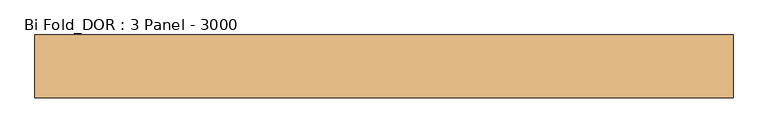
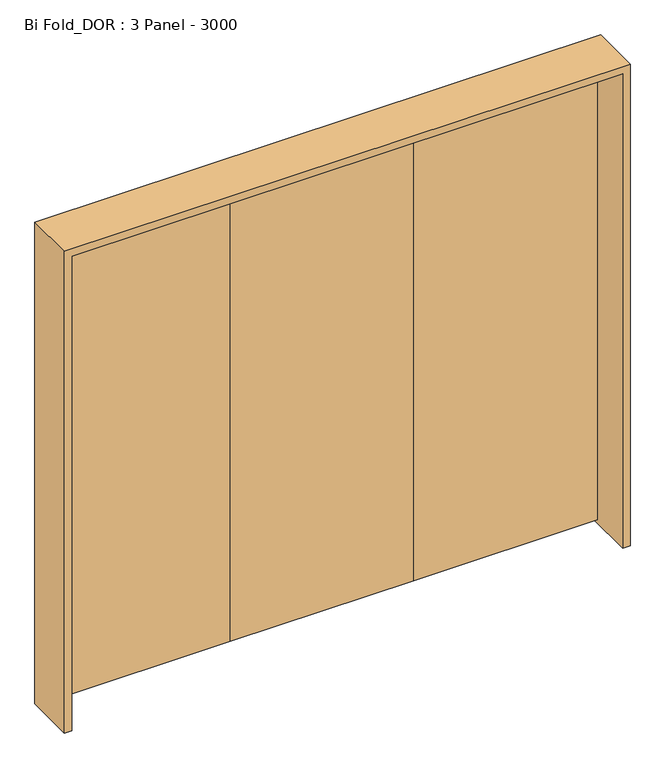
"""IFC4 building model written with IfcOpenShell, lengths in millimetres: door geometry, Bi Fold_DOR : 3 Panel - 3000."""

import ifcopenshell
import ifcopenshell.guid

model = None  # the IFC model being written
_history = None  # IfcOwnerHistory: only IFC2X3 demands one
_inside = {}  # id of a spatial element -> (the spatial element, [elements in it])
_under = {}  # id of a project, library or spatial element -> (it, [spatial elements below it])
_declared = {}  # id of a project -> (the project, [libraries it declares])
_typed = {}  # id of a type object -> (the type object, [elements of that type])
_made_of = {}  # id of a material, layer set ... -> (it, [elements and type objects made of it])


def new_model(schema):
    """Start an empty IFC model of exactly this schema.

    Asked for "IFC4X3", IfcOpenShell would pick the latest addendum, in which some entities
    have other attributes; the version numbers below select the first issue.
    IFC2X3 requires an IfcOwnerHistory on every rooted entity: one is made here for all.
    """
    global model, _history
    if schema == "IFC4X3":
        model = ifcopenshell.file(schema_version=(4, 3, 0, 0))
    else:
        model = ifcopenshell.file(schema=schema)
    _inside.clear()
    _under.clear()
    _declared.clear()
    _typed.clear()
    _made_of.clear()
    _history = None
    if model.schema == "IFC2X3":
        org = make("IfcOrganization", Name="unknown")
        user = make(
            "IfcPersonAndOrganization",
            ThePerson=make("IfcPerson", FamilyName="unknown"),
            TheOrganization=org,
        )
        app = make(
            "IfcApplication",
            ApplicationDeveloper=org,
            Version="unknown",
            ApplicationFullName="unknown",
            ApplicationIdentifier="unknown",
        )
        _history = make(
            "IfcOwnerHistory",
            OwningUser=user,
            OwningApplication=app,
            ChangeAction="ADDED",
            CreationDate=0,
        )
    return model


def make(cls, **values):
    """One entity of the class cls with the attributes given. An attribute that is None is left unset."""
    return model.create_entity(
        cls, **{name: value for name, value in values.items() if value is not None}
    )


def rooted(cls, **values):
    """An entity with a GlobalId (a new one), such as an element, a storey or a relation."""
    return make(cls, GlobalId=ifcopenshell.guid.new(), OwnerHistory=_history, **values)


def si_unit(unit_type, name, prefix=None):
    """IfcSIUnit, for example si_unit("LENGTHUNIT", "METRE", prefix="MILLI")."""
    return make("IfcSIUnit", UnitType=unit_type, Prefix=prefix, Name=name)


def assignment(units):
    """IfcUnitAssignment: the units of a project."""
    return None if units is None else make("IfcUnitAssignment", Units=units)


def point(xyz):
    """IfcCartesianPoint."""
    return None if xyz is None else make("IfcCartesianPoint", Coordinates=xyz)


def direction(xyz):
    """IfcDirection."""
    return None if xyz is None else make("IfcDirection", DirectionRatios=xyz)


def frame(location, z_axis=None, x_axis=None):
    """IfcAxis2Placement3D, a coordinate frame: its origin and axes. An axis left out is left unset."""
    return make(
        "IfcAxis2Placement3D",
        Location=point(location),
        Axis=direction(z_axis),
        RefDirection=direction(x_axis),
    )


def origin():
    """The frame at (0, 0, 0) with its axes left unset."""
    return frame((0.0, 0.0, 0.0))


def place(relative_to, where):
    """IfcLocalPlacement: puts the frame where relative to a parent placement (None: the world)."""
    return make(
        "IfcLocalPlacement", PlacementRelTo=relative_to, RelativePlacement=where
    )


def context(
    kind, dimensions, precision=None, world=None, true_north=None, identifier=None
):
    """IfcGeometricRepresentationContext, for example the 3D "Model" context."""
    return make(
        "IfcGeometricRepresentationContext",
        ContextIdentifier=identifier,
        ContextType=kind,
        CoordinateSpaceDimension=dimensions,
        Precision=precision,
        WorldCoordinateSystem=world,
        TrueNorth=true_north,
    )


def project(units=None, contexts=None):
    """IfcProject with its units and contexts."""
    return rooted(
        "IfcProject",
        Name="project",
        RepresentationContexts=contexts,
        UnitsInContext=assignment(units),
    )


def spatial(cls, under=None, at=None, **own):
    """A site, building, storey or space (cls), placed at a placement, below another one or the project."""
    s = rooted(cls, ObjectPlacement=at, **own)
    if under is not None:
        _under.setdefault(under.id(), (under, []))[1].append(s)
    return s


def polyline(points):
    """IfcPolyline through the points."""
    return make("IfcPolyline", Points=[point(p) for p in points])


def outline(outer, holes=None, kind="AREA"):
    """IfcArbitraryClosedProfileDef: a profile drawn as a closed curve; with holes, ...WithVoids."""
    if holes is None:
        return make("IfcArbitraryClosedProfileDef", ProfileType=kind, OuterCurve=outer)
    return make(
        "IfcArbitraryProfileDefWithVoids",
        ProfileType=kind,
        OuterCurve=outer,
        InnerCurves=holes,
    )


def extrude(swept, where, along, depth):
    """IfcExtrudedAreaSolid: the profile swept, set in the frame where, extruded along a direction by depth."""
    return make(
        "IfcExtrudedAreaSolid",
        SweptArea=swept,
        Position=where,
        ExtrudedDirection=direction(along),
        Depth=depth,
    )


def shape(context_of_items, identifier, shape_type, items):
    """IfcShapeRepresentation: the items that make up one representation, for example the "Body"."""
    return make(
        "IfcShapeRepresentation",
        ContextOfItems=context_of_items,
        RepresentationIdentifier=identifier,
        RepresentationType=shape_type,
        Items=items,
    )


def source(mapping_origin, context_of_items, identifier, shape_type, items):
    """IfcRepresentationMap: a shape defined once, which mapped items show again and again."""
    return make(
        "IfcRepresentationMap",
        MappingOrigin=mapping_origin,
        MappedRepresentation=shape(context_of_items, identifier, shape_type, items),
    )


def transform(
    local_origin,
    x_axis=None,
    y_axis=None,
    z_axis=None,
    scale=None,
    scale2=None,
    scale3=None,
    uniform=True,
):
    """IfcCartesianTransformationOperator3D, or its non-uniform kind. x_axis, y_axis, z_axis: its Axis1, 2, 3."""
    if uniform:
        return make(
            "IfcCartesianTransformationOperator3D",
            Axis1=direction(x_axis),
            Axis2=direction(y_axis),
            LocalOrigin=point(local_origin),
            Scale=scale,
            Axis3=direction(z_axis),
        )
    return make(
        "IfcCartesianTransformationOperator3DnonUniform",
        Axis1=direction(x_axis),
        Axis2=direction(y_axis),
        LocalOrigin=point(local_origin),
        Scale=scale,
        Axis3=direction(z_axis),
        Scale2=scale2,
        Scale3=scale3,
    )


def mapped(mapping_source, mapping_target):
    """IfcMappedItem: shows the shape of a source again, moved by a transform."""
    return make(
        "IfcMappedItem", MappingSource=mapping_source, MappingTarget=mapping_target
    )


def made_of(thing, what):
    """Note that an element or type object is made of a material, layer set ...; save() writes the relation."""
    if what is not None:
        _made_of.setdefault(what.id(), (what, []))[1].append(thing)
    return thing


def element(
    cls,
    number,
    at=None,
    inside=None,
    cuts=None,
    type_object=None,
    material=None,
    context=None,
    identifier="Body",
    shape_type=None,
    held_by="IfcProductDefinitionShape",
    body=None,
    shapes=None,
    **own,
):
    """One element of the class cls, such as IfcWall. Its Tag is "e" and its number.

    at: its placement. inside: the storey or other place that contains it. cuts: it is an
    opening in that element (IfcRelVoidsElement). A single representation is given by context,
    identifier, shape_type and body (its items); several are given by shapes. held_by: the class
    of the entity that holds the representations. save() writes the other relations.
    """
    e = rooted(cls, Tag="e%d" % number, ObjectPlacement=at, **own)
    if body is not None:
        shapes = [shape(context, identifier, shape_type, body)]
    if shapes is not None:
        e.Representation = make(held_by, Representations=shapes)
    if inside is not None:
        _inside.setdefault(inside.id(), (inside, []))[1].append(e)
    if cuts is not None:
        rooted(
            "IfcRelVoidsElement", RelatingBuildingElement=cuts, RelatedOpeningElement=e
        )
    if type_object is not None:
        _typed.setdefault(type_object.id(), (type_object, []))[1].append(e)
    return made_of(e, material)


def aggregate(whole, parts):
    """IfcRelAggregates: a whole, such as a stair, and the parts it consists of."""
    return rooted("IfcRelAggregates", RelatingObject=whole, RelatedObjects=parts)


def save(model, path):
    """Write the relations noted so far, then the file.

    IfcRelAggregates (storeys below a building ...), IfcRelContainedInSpatialStructure (elements
    in a storey), IfcRelDefinesByType, IfcRelAssociatesMaterial and IfcRelDeclares: one each for
    every whole, place, type object, material and project.
    """
    for whole, parts in _under.values():
        aggregate(whole, parts)
    for where, things in _inside.values():
        rooted(
            "IfcRelContainedInSpatialStructure",
            RelatedElements=things,
            RelatingStructure=where,
        )
    for kind, things in _typed.values():
        rooted("IfcRelDefinesByType", RelatedObjects=things, RelatingType=kind)
    for what, things in _made_of.values():
        rooted("IfcRelAssociatesMaterial", RelatedObjects=things, RelatingMaterial=what)
    for by, libraries in _declared.values():
        rooted("IfcRelDeclares", RelatingContext=by, RelatedDefinitions=libraries)
    model.write(path)


def bi_fold_dor_3_panel_3000_75a00cad(model_context):
    return source(origin(), model_context, "Body", "SweptSolid", [
        extrude(outline(polyline([(1460.0, 95.0), (486.6666667, 95.0), (486.6666667, 135.0), (1460.0, 135.0), (1460.0, 95.0)])), frame((0.0, 0.0, 20.0), z_axis=(0.0, 0.0, 1.0), x_axis=(1.0, 0.0, 0.0)), (0.0, 0.0, 1.0), 2640.0),
        extrude(outline(polyline([(486.6666667, 95.0), (-486.6666667, 95.0), (-486.6666667, 135.0), (486.6666667, 135.0), (486.6666667, 95.0)])), frame((0.0, 0.0, 20.0), z_axis=(0.0, 0.0, 1.0), x_axis=(1.0, 0.0, 0.0)), (0.0, 0.0, 1.0), 2640.0),
        extrude(outline(polyline([(-486.6666667, 95.0), (-1460.0, 95.0), (-1460.0, 135.0), (-486.6666667, 135.0), (-486.6666667, 95.0)])), frame((0.0, 0.0, 20.0), z_axis=(0.0, 0.0, 1.0), x_axis=(1.0, 0.0, 0.0)), (0.0, 0.0, 1.0), 2640.0),
        extrude(outline(polyline([(0.0, 1460.0), (0.0, 1500.0), (2700.0, 1500.0), (2700.0, -1500.0), (0.0, -1500.0), (0.0, -1460.0), (2660.0, -1460.0), (2660.0, 1460.0), (0.0, 1460.0)])), frame((0.0, -135.0, 0.0), z_axis=(0.0, 1.0, 0.0), x_axis=(0.0, 0.0, 1.0)), (0.0, 0.0, 1.0), 270.0),
    ])


if __name__ == "__main__":
    model = new_model("IFC4")
    model_context = context("Model", 3, world=origin())
    ifc_project = project(units=[si_unit("LENGTHUNIT", "METRE", prefix="MILLI")], contexts=[model_context])
    site = spatial("IfcSite", under=ifc_project)
    building = spatial("IfcBuilding", under=site)
    placement = place(None, origin())
    bi_fold_dor_3_panel_3000_shape = bi_fold_dor_3_panel_3000_75a00cad(model_context)
    element("IfcDoor", 1, ObjectType="Bi Fold_DOR : 3 Panel - 3000", at=placement, inside=building, context=model_context, shape_type="MappedRepresentation", body=[
        mapped(bi_fold_dor_3_panel_3000_shape, transform((0.0, 0.0, 0.0), x_axis=(1.0, 0.0, 0.0), y_axis=(0.0, 1.0, 0.0), z_axis=(0.0, 0.0, 1.0))),
    ])
    save(model, "model.ifc")
